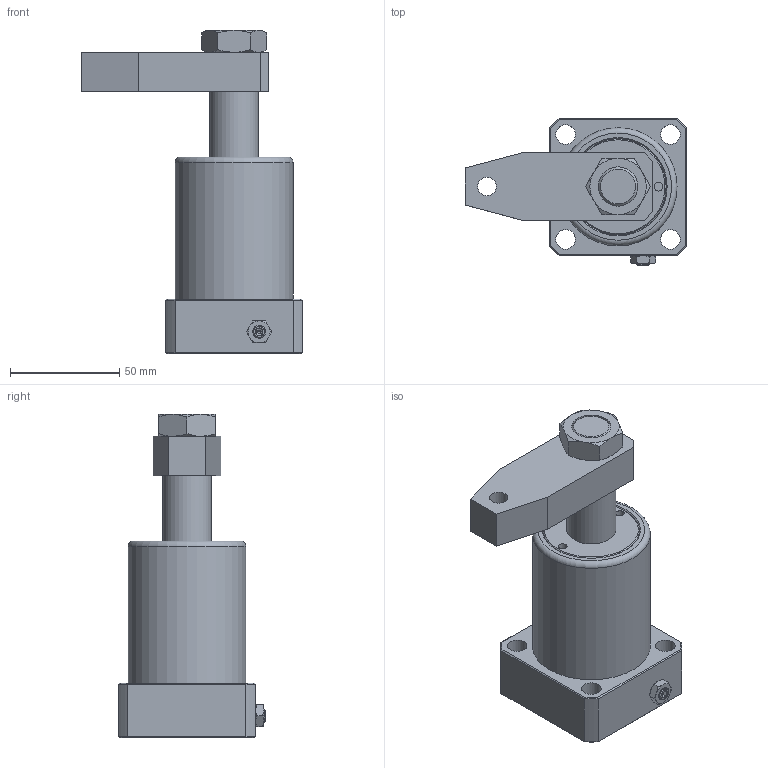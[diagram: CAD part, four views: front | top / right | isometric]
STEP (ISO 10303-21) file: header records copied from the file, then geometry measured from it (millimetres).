
FILE_DESCRIPTION(/* description */ ('Unknown'),/* implementation_level */ '2;1');
FILE_NAME(/* name */ 'HSC-MF40S-A',/* time_stamp */ '2019-05-27T16:06:36+08:00',/* author */ ('Unknown'),/* organization */ ('Unknown'),/* preprocessor_version */ 'ST-DEVELOPER v16.7',/* originating_system */ 'DEX',/* authorisation */ $);
FILE_SCHEMA (('AUTOMOTIVE_DESIGN {1 0 10303 214 3 1 1}'));
Length unit declared in the file: millimetre
Products named in the file (4): HSC-MF40S-A; HSC-MF40S-CYLINDER; HSC-4002-S-AXLE CENTRE; HSC-40S-A
Assembly tree (3 placements, depth 2):
  HSC-MF40S-A
    HSC-MF40S-CYLINDER
    HSC-4002-S-AXLE CENTRE
    HSC-40S-A
Bounding box: 101.5 x 67.6 x 148 mm (x, y, z)
Volume: 268200.1 mm3; surface area: 58005.9 mm2
Topology: 3 solids, 3 shells, 131 faces, 282 edges, 175 vertices
Faces by surface type: plane 57, cone 34, cylinder 24, bspline 12, torus 4
Full cylindrical faces by diameter (mm): 4 x2, 5 x2, 6 x1, 8.5 x1, 9 x4, 12 x2, 18 x2, 19 x1, 22.4 x2, 40 x2, 54 x1
Entity records: 3964 total; most frequent: CARTESIAN_POINT 967, ORIENTED_EDGE 494, DIRECTION 494, EDGE_CURVE 247, AXIS2_PLACEMENT_3D 213, EDGE_LOOP 192, FACE_BOUND 192, VERTEX_POINT 171
